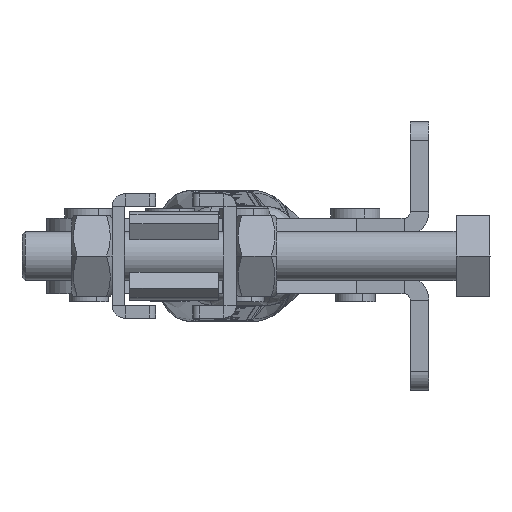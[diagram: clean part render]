
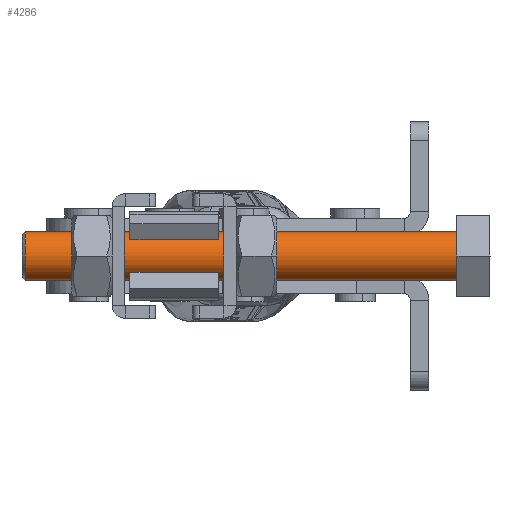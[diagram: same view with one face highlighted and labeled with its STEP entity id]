
A CAD part, left-side view. The second image highlights one B-rep face of the part: STEP entity #4286.
In plain terms, the highlighted cylindrical face has radius 4 mm (diameter 8 mm), a partial arc.
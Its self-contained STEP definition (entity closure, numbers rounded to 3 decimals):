
#935 = VERTEX_POINT ( 'NONE', #12511 ) ;
#1210 = CARTESIAN_POINT ( 'NONE',  ( 0., 0., -4. ) ) ;
#3332 = CARTESIAN_POINT ( 'NONE',  ( 0., -69.5, 0. ) ) ;
#4286 = ADVANCED_FACE ( 'NONE', ( #27980 ), #27065, .T. ) ;
#5341 = CIRCLE ( 'NONE', #7619, 4. ) ;
#5940 = CARTESIAN_POINT ( 'NONE',  ( 0., 0., 0. ) ) ;
#6202 = ORIENTED_EDGE ( 'NONE', *, *, #15334, .F. ) ;
#6210 = DIRECTION ( 'NONE',  ( 0., 0., -1. ) ) ;
#7619 = AXIS2_PLACEMENT_3D ( 'NONE', #5940, #25743, #8804 ) ;
#8803 = ORIENTED_EDGE ( 'NONE', *, *, #32950, .T. ) ;
#8804 = DIRECTION ( 'NONE',  ( 0., 0., 1. ) ) ;
#8888 = AXIS2_PLACEMENT_3D ( 'NONE', #15406, #26769, #9818 ) ;
#9618 = DIRECTION ( 'NONE',  ( 0., 1., 0. ) ) ;
#9818 = DIRECTION ( 'NONE',  ( 0., 0., 1. ) ) ;
#12511 = CARTESIAN_POINT ( 'NONE',  ( 0., -69.5, -4. ) ) ;
#14103 = EDGE_CURVE ( 'NONE', #20519, #935, #26886, .T. ) ;
#14415 = EDGE_CURVE ( 'NONE', #935, #18127, #34771, .T. ) ;
#15334 = EDGE_CURVE ( 'NONE', #20519, #17485, #16213, .T. ) ;
#15406 = CARTESIAN_POINT ( 'NONE',  ( 0., -70., 0. ) ) ;
#16213 = LINE ( 'NONE', #34930, #21961 ) ;
#17485 = VERTEX_POINT ( 'NONE', #28362 ) ;
#18127 = VERTEX_POINT ( 'NONE', #1210 ) ;
#19782 = VECTOR ( 'NONE', #31952, 1000. ) ;
#20519 = VERTEX_POINT ( 'NONE', #36602 ) ;
#20689 = EDGE_LOOP ( 'NONE', ( #33528, #29530, #8803, #6202 ) ) ;
#20711 = CARTESIAN_POINT ( 'NONE',  ( 0., -70., -4. ) ) ;
#21756 = AXIS2_PLACEMENT_3D ( 'NONE', #3332, #23202, #6210 ) ;
#21961 = VECTOR ( 'NONE', #9618, 1000. ) ;
#23202 = DIRECTION ( 'NONE',  ( 0., 1., 0. ) ) ;
#25743 = DIRECTION ( 'NONE',  ( 0., -1., 0. ) ) ;
#26769 = DIRECTION ( 'NONE',  ( 0., 1., 0. ) ) ;
#26886 = CIRCLE ( 'NONE', #21756, 4. ) ;
#27065 = CYLINDRICAL_SURFACE ( 'NONE', #8888, 4. ) ;
#27980 = FACE_OUTER_BOUND ( 'NONE', #20689, .T. ) ;
#28362 = CARTESIAN_POINT ( 'NONE',  ( 0., 0., 4. ) ) ;
#29530 = ORIENTED_EDGE ( 'NONE', *, *, #14415, .T. ) ;
#31952 = DIRECTION ( 'NONE',  ( 0., 1., 0. ) ) ;
#32950 = EDGE_CURVE ( 'NONE', #18127, #17485, #5341, .T. ) ;
#33528 = ORIENTED_EDGE ( 'NONE', *, *, #14103, .T. ) ;
#34771 = LINE ( 'NONE', #20711, #19782 ) ;
#34930 = CARTESIAN_POINT ( 'NONE',  ( 0., -70., 4. ) ) ;
#36602 = CARTESIAN_POINT ( 'NONE',  ( 0., -69.5, 4. ) ) ;
